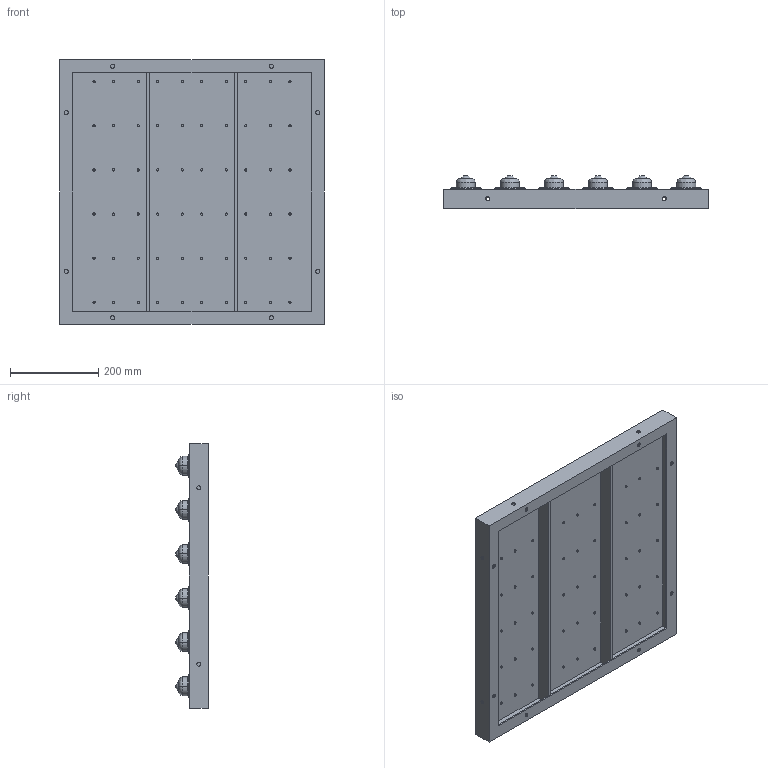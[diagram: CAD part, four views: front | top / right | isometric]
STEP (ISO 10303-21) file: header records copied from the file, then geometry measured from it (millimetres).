
FILE_DESCRIPTION (( 'STEP AP203' ), '1' );
FILE_NAME ('PVT-6A.STEP', '2016-01-07T03:59:13', ( '' ), ( '' ), 'SwSTEP 2.0', 'SolidWorks 2013', '' );
FILE_SCHEMA (( 'CONFIG_CONTROL_DESIGN' ));
Length unit declared in the file: millimetre
Products named in the file (4): pvt-6 part; pv30; cross recessed pan head screw_jis_JIS B 1111 Cross recessed pan head screw - M5 x 6 - Z --6C; PVT-6A
Assembly tree (109 placements, depth 2):
  PVT-6A
    pvt-6 part
    pv30  x36
    cross recessed pan head screw_jis_JIS B 1111 Cross recessed pan head screw - M5 x 6 - Z --6C  x72
Bounding box: 600 x 74 x 600 mm (x, y, z)
Volume: 3156617.2 mm3; surface area: 1410770 mm2
Topology: 109 solids, 109 shells, 3476 faces, 8616 edges, 5360 vertices
Faces by surface type: plane 1572, cylinder 860, cone 432, torus 288, bspline 180, sphere 144
Entity records: 13064 total; most frequent: CARTESIAN_POINT 1980, DIRECTION 1865, ORIENTED_EDGE 1450, AXIS2_PLACEMENT_3D 790, EDGE_CURVE 725, VERTEX_POINT 479, EDGE_LOOP 442, CIRCLE 426
